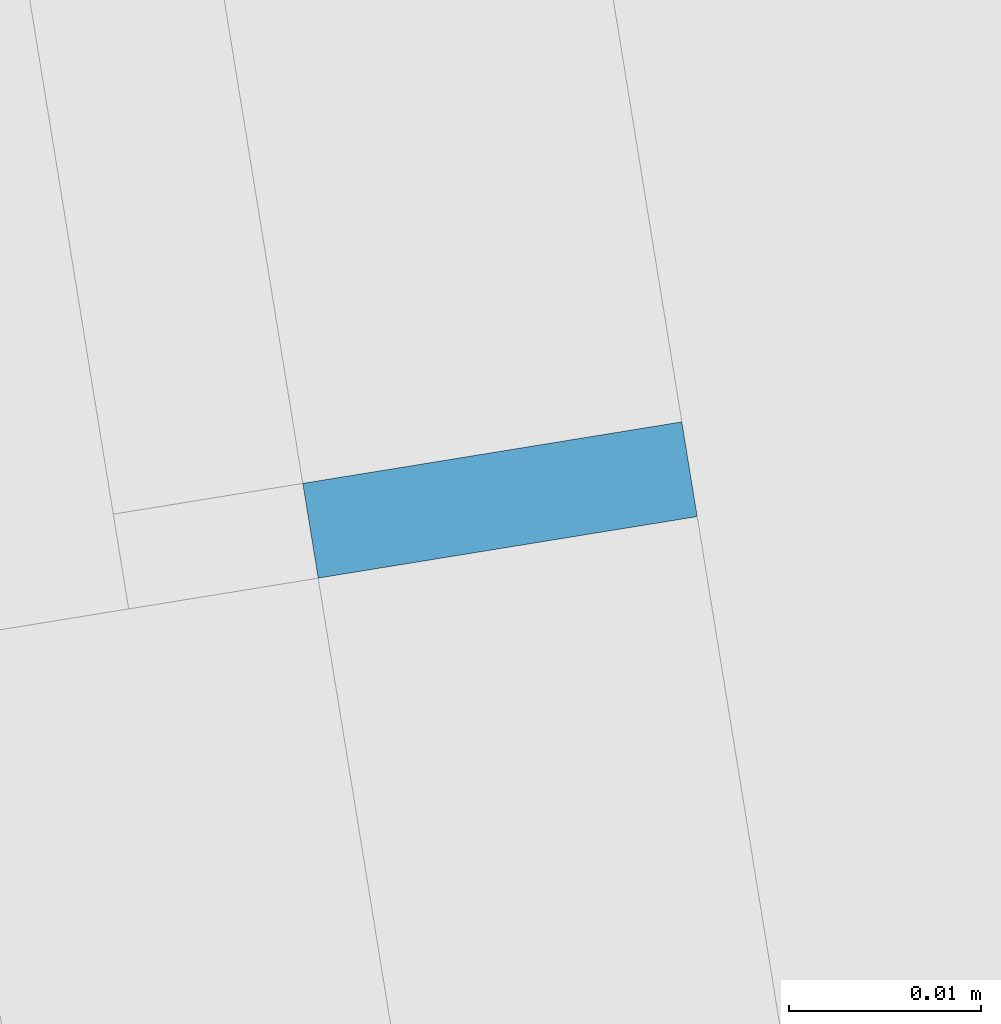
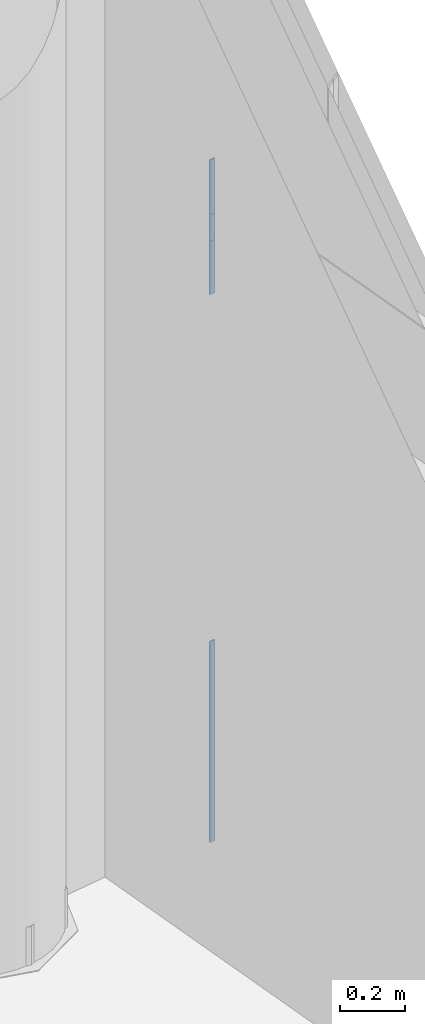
# One storey, part 11 of 38: 4 members, 1 element without a shape of its own.
"""IFC2X3 building model written with IfcOpenShell, lengths in millimetres."""

from ifc_helpers import new_model, entity, si_unit, converted_unit, derived_unit, direction, frame, origin, origin_with_axes, origin_2d_with_axis, place, context, subcontext, project, spatial, rectangle, extrude, source, transform, mapped, material, type_object, element, aggregate, save


model = new_model("IFC2X3")

# Units and contexts
model_context = context("Model", 3, precision=0.01, world=origin(), true_north=direction((6.12323399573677e-17, 1.0)))
plan_context = context("Plan", 3, precision=1e-05, world=origin_with_axes())
body_context = subcontext(model_context, "Body", "Model", "MODEL_VIEW")
ifc_project = project(units=[converted_unit("PLANEANGLEUNIT", "DEGREE", entity("IfcPositiveLengthMeasure", 0.0174532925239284), si_unit("PLANEANGLEUNIT", "RADIAN"), dimensions=[0, 0, 0, 0, 0, 0, 0]), si_unit("AREAUNIT", "SQUARE_METRE"), si_unit("LENGTHUNIT", "METRE", prefix="MILLI"), si_unit("MASSUNIT", "GRAM", prefix="KILO"), si_unit("POWERUNIT", "WATT"), si_unit("PRESSUREUNIT", "PASCAL", prefix="KILO"), si_unit("FORCEUNIT", "NEWTON", prefix="KILO"), si_unit("ELECTRICVOLTAGEUNIT", "VOLT"), si_unit("ELECTRICCURRENTUNIT", "AMPERE"), si_unit("THERMODYNAMICTEMPERATUREUNIT", "DEGREE_CELSIUS"), si_unit("TIMEUNIT", "SECOND"), si_unit("VOLUMEUNIT", "CUBIC_METRE"), derived_unit("LINEARVELOCITYUNIT", [(si_unit("LENGTHUNIT", "METRE"), 1), (si_unit("TIMEUNIT", "SECOND"), -1)]), derived_unit("VOLUMETRICFLOWRATEUNIT", [(si_unit("VOLUMEUNIT", "CUBIC_METRE"), 1), (si_unit("TIMEUNIT", "SECOND"), -1)]), derived_unit("THERMALTRANSMITTANCEUNIT", [(si_unit("POWERUNIT", "WATT"), 1), (si_unit("THERMODYNAMICTEMPERATUREUNIT", "KELVIN"), -1), (si_unit("AREAUNIT", "SQUARE_METRE"), -1)]), derived_unit("SOUNDPRESSUREUNIT", [(si_unit("PRESSUREUNIT", "PASCAL"), 1)])], contexts=[model_context, plan_context])

# Site, building, storey
site_placement = place(None, frame((-0.00071070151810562, 0.00438415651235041, 0.0), z_axis=(0.0, 0.0, 1.0), x_axis=(-0.160236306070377, 0.987078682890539, 0.0)))
site = spatial("IfcSite", under=ifc_project, at=site_placement, Name="Default", CompositionType="ELEMENT")
building_placement = place(site_placement, origin_with_axes())
building = spatial("IfcBuilding", under=site, at=building_placement, Name="TOO", CompositionType="ELEMENT")
storey_placement = place(building_placement, frame((0.0, 0.0, 50999.9999999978), z_axis=(0.0, 0.0, 1.0), x_axis=(1.0, 0.0, 0.0)))
storey = spatial("IfcBuildingStorey", under=building, at=storey_placement, Name="Nivå D-H01", CompositionType="ELEMENT", Elevation=50999.9999999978)

# Curtain wall, members
curtain_wall_type = type_object("IfcCurtainWallType", Name="Curtain Wall:Curtain Wall Standard (Bruk kun denne)", PredefinedType="NOTDEFINED")
curtain_wall_placement = place(storey_placement, frame((0.0, 0.0, -50999.9999999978), z_axis=(0.0, 0.0, 1.0), x_axis=(1.0, 0.0, 0.0)))
curtain_wall = element("IfcCurtainWall", 1, at=curtain_wall_placement, inside=storey, type_object=curtain_wall_type, Name="Curtain Wall:Curtain Wall Standard (Bruk kun denne)", ObjectType="Curtain Wall:Curtain Wall Standard (Bruk kun denne)")
ifc_material = material(Name="Rubber")
member_type_1 = type_object("IfcMemberType", Name="Rectangular Mullion:A246 - Fuge 5mm L09", PredefinedType="MULLION", material=ifc_material)
shared_shape_1 = source(origin(), body_context, "Body", "SweptSolid", [
    extrude(rectangle(XDim=5.0, YDim=20.0, at=origin_2d_with_axis()), frame((0.0, 10.0, -752.500000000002), z_axis=(0.0, 0.0, 1.0), x_axis=(-1.0, 0.0, 0.0)), (0.0, 0.0, 1.0), 752.500000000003),
])
member_1_placement = place(curtain_wall_placement, frame((779577.619644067, -604232.480498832, 51147.4999999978), z_axis=(0.0, 0.0, -1.0), x_axis=(-1.0, 0.0, 0.0)))
member_1 = element("IfcMember", 2, at=member_1_placement, type_object=member_type_1, material=ifc_material, Name="Rectangular Mullion:A246 - Fuge 5mm L09", ObjectType="Rectangular Mullion:A246 - Fuge 5mm L09", context=body_context, shape_type="MappedRepresentation", body=[
    mapped(shared_shape_1, transform((0.0, 0.0, 0.0), scale=1.0)),
])
member_type_2 = type_object("IfcMemberType", Name="Rectangular Mullion:A246 - Fuge 5mm L09", PredefinedType="MULLION", material=ifc_material)
shared_shape_2 = source(origin(), body_context, "Body", "SweptSolid", [
    extrude(rectangle(XDim=5.0, YDim=20.0, at=origin_2d_with_axis()), frame((0.0, 10.0, -200.0), z_axis=(0.0, 0.0, 1.0), x_axis=(-1.0, 0.0, 0.0)), (0.0, 0.0, 1.0), 200.000000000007),
])
member_2_placement = place(curtain_wall_placement, frame((779577.619644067, -604232.480498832, 53199.9999999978), z_axis=(0.0, 0.0, -1.0), x_axis=(-1.0, 0.0, 0.0)))
member_2 = element("IfcMember", 3, at=member_2_placement, type_object=member_type_2, material=ifc_material, Name="Rectangular Mullion:A246 - Fuge 5mm L09", ObjectType="Rectangular Mullion:A246 - Fuge 5mm L09", context=body_context, shape_type="MappedRepresentation", body=[
    mapped(shared_shape_2, transform((0.0, 0.0, 0.0), scale=1.0)),
])
member_type_3 = type_object("IfcMemberType", Name="Rectangular Mullion:A246 - Fuge 5mm L09", PredefinedType="MULLION", material=ifc_material)
shared_shape_3 = source(origin(), body_context, "Body", "SweptSolid", [
    extrude(rectangle(XDim=5.0, YDim=20.0, at=origin_2d_with_axis()), frame((0.0, 10.0, -100.0), z_axis=(0.0, 0.0, 1.0), x_axis=(-1.0, 0.0, 0.0)), (0.0, 0.0, 1.0), 100.000000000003),
])
member_3_placement = place(curtain_wall_placement, frame((779577.619644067, -604232.480498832, 53399.9999999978), z_axis=(0.0, 0.0, -1.0), x_axis=(-1.0, 0.0, 0.0)))
member_3 = element("IfcMember", 4, at=member_3_placement, type_object=member_type_3, material=ifc_material, Name="Rectangular Mullion:A246 - Fuge 5mm L09", ObjectType="Rectangular Mullion:A246 - Fuge 5mm L09", context=body_context, shape_type="MappedRepresentation", body=[
    mapped(shared_shape_3, transform((0.0, 0.0, 0.0), scale=1.0)),
])
member_type_4 = type_object("IfcMemberType", Name="Rectangular Mullion:A246 - Fuge 5mm L09", PredefinedType="MULLION", material=ifc_material)
shared_shape_4 = source(origin(), body_context, "Body", "SweptSolid", [
    extrude(rectangle(XDim=5.0, YDim=20.0, at=origin_2d_with_axis()), frame((0.0, 10.0, -205.0), z_axis=(0.0, 0.0, 1.0), x_axis=(-1.0, 0.0, 0.0)), (0.0, 0.0, 1.0), 204.999999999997),
])
member_4_placement = place(curtain_wall_placement, frame((779577.619644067, -604232.480498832, 53499.9999999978), z_axis=(0.0, 0.0, -1.0), x_axis=(-1.0, 0.0, 0.0)))
member_4 = element("IfcMember", 5, at=member_4_placement, type_object=member_type_4, material=ifc_material, Name="Rectangular Mullion:A246 - Fuge 5mm L09", ObjectType="Rectangular Mullion:A246 - Fuge 5mm L09", context=body_context, shape_type="MappedRepresentation", body=[
    mapped(shared_shape_4, transform((0.0, 0.0, 0.0), scale=1.0)),
])
aggregate(curtain_wall, [member_1, member_2, member_3, member_4])

save(model, "model.ifc")
